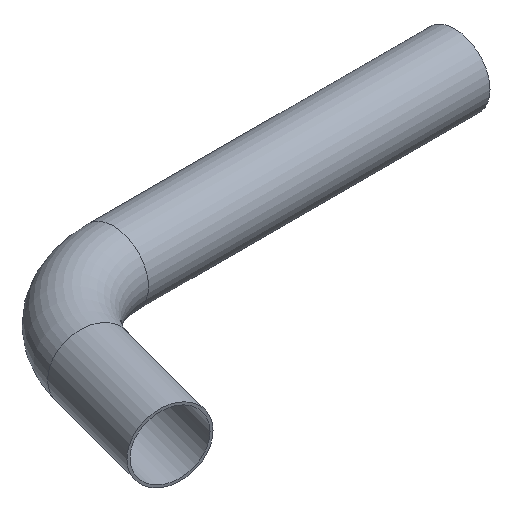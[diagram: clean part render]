
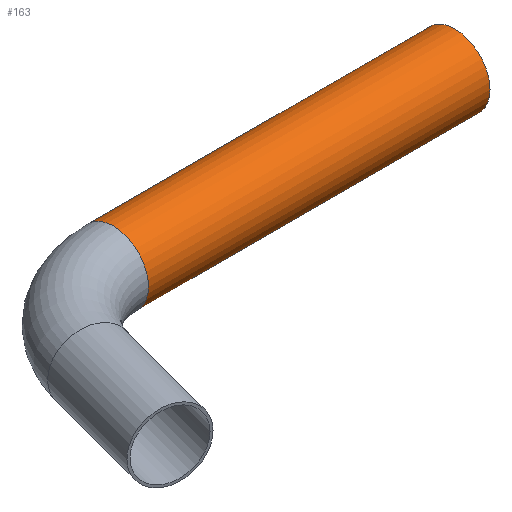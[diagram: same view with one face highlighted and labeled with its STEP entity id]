
A CAD part, isometric view. The second image highlights one B-rep face of the part: STEP entity #163.
In plain terms, the highlighted cylindrical face has radius 21 mm (diameter 42 mm), a full revolution.
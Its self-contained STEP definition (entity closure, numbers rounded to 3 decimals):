
#136=CARTESIAN_POINT('',(0.,60.,0.0));
#137=DIRECTION('',(1.0,0.,0.0));
#138=DIRECTION('',(0.0,-1.0,0.0));
#139=AXIS2_PLACEMENT_3D('',#136,#137,#138);
#140=CYLINDRICAL_SURFACE('',#139,21.);
#141=CARTESIAN_POINT('',(203.96,81.0,0.));
#142=VERTEX_POINT('',#141);
#143=CARTESIAN_POINT('',(203.96,60.0,0.0));
#144=DIRECTION('',(-1.0,0.0,0.0));
#145=DIRECTION('',(0.0,-1.0,0.0));
#146=AXIS2_PLACEMENT_3D('',#143,#144,#145);
#147=CIRCLE('',#146,21.);
#148=EDGE_CURVE('',#142,#142,#147,.T.);
#149=ORIENTED_EDGE('',*,*,#148,.T.);
#150=EDGE_LOOP('',(#149));
#151=FACE_OUTER_BOUND('',#150,.T.);
#152=CARTESIAN_POINT('',(0.,81.,0.));
#153=VERTEX_POINT('',#152);
#154=CARTESIAN_POINT('',(0.,60.,0.0));
#155=DIRECTION('',(-1.0,0.0,0.0));
#156=DIRECTION('',(0.0,-1.0,0.0));
#157=AXIS2_PLACEMENT_3D('',#154,#155,#156);
#158=CIRCLE('',#157,21.);
#159=EDGE_CURVE('',#153,#153,#158,.T.);
#160=ORIENTED_EDGE('',*,*,#159,.F.);
#161=EDGE_LOOP('',(#160));
#162=FACE_BOUND('',#161,.T.);
#163=ADVANCED_FACE('',(#151,#162),#140,.T.);
